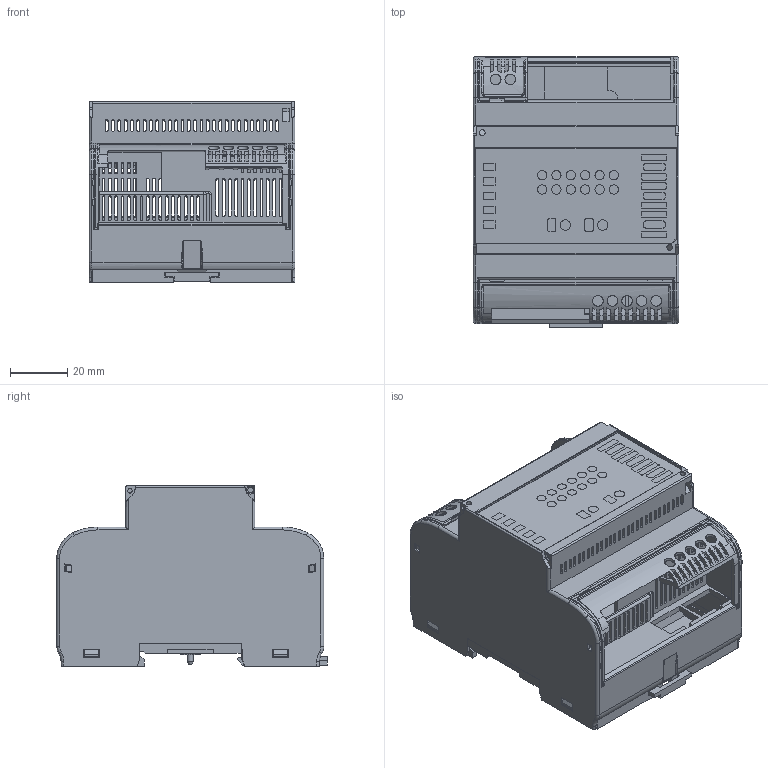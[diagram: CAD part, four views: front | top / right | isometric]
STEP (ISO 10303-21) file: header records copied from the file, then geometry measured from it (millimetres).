
FILE_DESCRIPTION (( 'STEP AP214' ), '1' );
FILE_NAME ('EDS44x.STEP', '2016-01-18T09:27:32', ( 'User' ), ( 'Bender' ), 'SwSTEP 2.0', 'SolidWorks 2015', '' );
FILE_SCHEMA (( 'AUTOMOTIVE_DESIGN' ));
Length unit declared in the file: millimetre
Products named in the file (7): Z152507_J44x_Frontplatte_Maßbild; Z152421.03_J44x_Klemmenabdeckung_4-u1a5 = 2+2+RJ+DFMC_Variante_3 - RAL 1003; EDS44x; Z152400.05_J44x_Unterteil_4TE_71,7mm; Z152399.02_J44x_Oberteil_4-1-4 = 2+Ohr+2x12 | 2+2 -RJ LED = Variante 4 - RAL 1003; Z151798.03_Schieber; Z152421.03_J44x_Klemmenabdeckung_4-o1a = 2pol_Variante_2 - RAL 1003
Assembly tree (6 placements, depth 2):
  EDS44x
    Z152400.05_J44x_Unterteil_4TE_71,7mm
    Z152399.02_J44x_Oberteil_4-1-4 = 2+Ohr+2x12 | 2+2 -RJ LED = Variante 4 - RAL 1003
    Z152421.03_J44x_Klemmenabdeckung_4-o1a = 2pol_Variante_2 - RAL 1003
    Z152421.03_J44x_Klemmenabdeckung_4-u1a5 = 2+2+RJ+DFMC_Variante_3 - RAL 1003
    Z151798.03_Schieber
    Z152507_J44x_Frontplatte_Maßbild
Bounding box: 71.7 x 94.2 x 62.9 mm (x, y, z)
Volume: 54837.7 mm3; surface area: 87039.3 mm2
Topology: 6 solids, 6 shells, 2863 faces, 7924 edges, 5065 vertices
Faces by surface type: plane 1533, cylinder 748, bspline 378, torus 117, sphere 54, cone 33
Full cylindrical faces by diameter (mm): 1.6 x2, 2 x5, 2.2 x2, 3 x3, 3.2 x12, 3.6 x2, 3.7 x7, 7 x2
Entity records: 107470 total; most frequent: CARTESIAN_POINT 38727, ORIENTED_EDGE 15578, DIRECTION 12168, EDGE_CURVE 7789, LINE 5120, VECTOR 5120, VERTEX_POINT 5009, AXIS2_PLACEMENT_3D 3524
